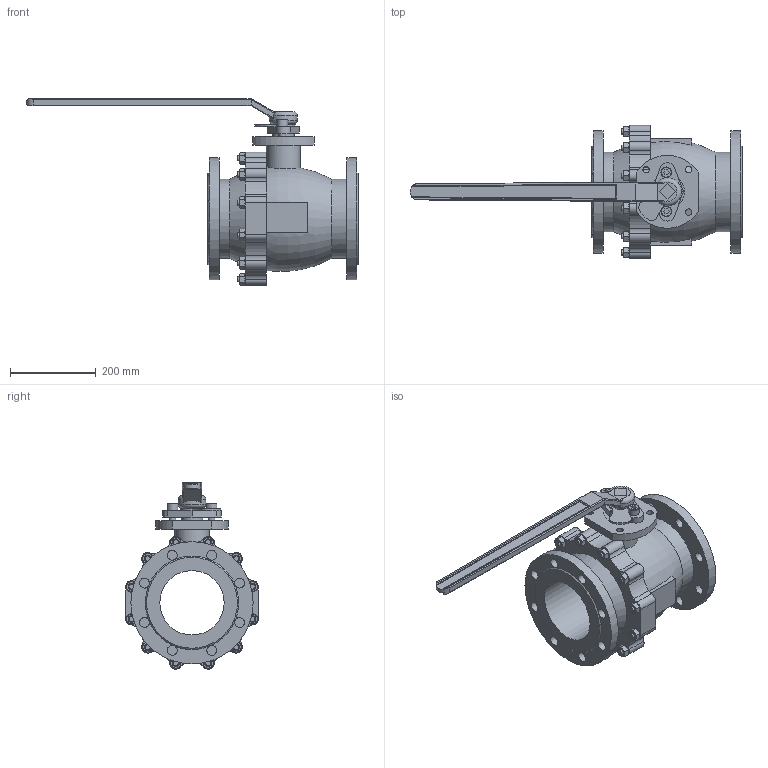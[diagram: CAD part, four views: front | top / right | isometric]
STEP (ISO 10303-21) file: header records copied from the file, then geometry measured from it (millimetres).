
FILE_DESCRIPTION(('STEP AP203'), '1');
FILE_NAME('3D_707-150-16', '', ('UNSPECIFIED'), ('UNSPECIFIED'), 'C3D Converter', 'C3D Toolkit', '');
FILE_SCHEMA(('CONFIG_CONTROL_DESIGN'));
Length unit declared in the file: millimetre
Bounding box: 774 x 310 x 435.03 mm (x, y, z)
Volume: 10859763.6 mm3; surface area: 920588.3 mm2
Topology: 45 solids, 45 shells, 2649 faces, 7737 edges, 5170 vertices
Faces by surface type: plane 2466, cylinder 127, cone 50, torus 6
Full cylindrical faces by diameter (mm): 12 x24, 15 x4, 16 x2, 23 x16, 25 x2, 50 x1, 65 x1, 80 x1, 150 x1, 185 x2, 285 x2
Entity records: 115974 total; most frequent: CARTESIAN_POINT 24514, ORIENTED_EDGE 15252, DIRECTION 13112, EDGE_CURVE 7626, LINE 7012, VECTOR 7012, VERTEX_POINT 5170, AXIS2_PLACEMENT_3D 3050
